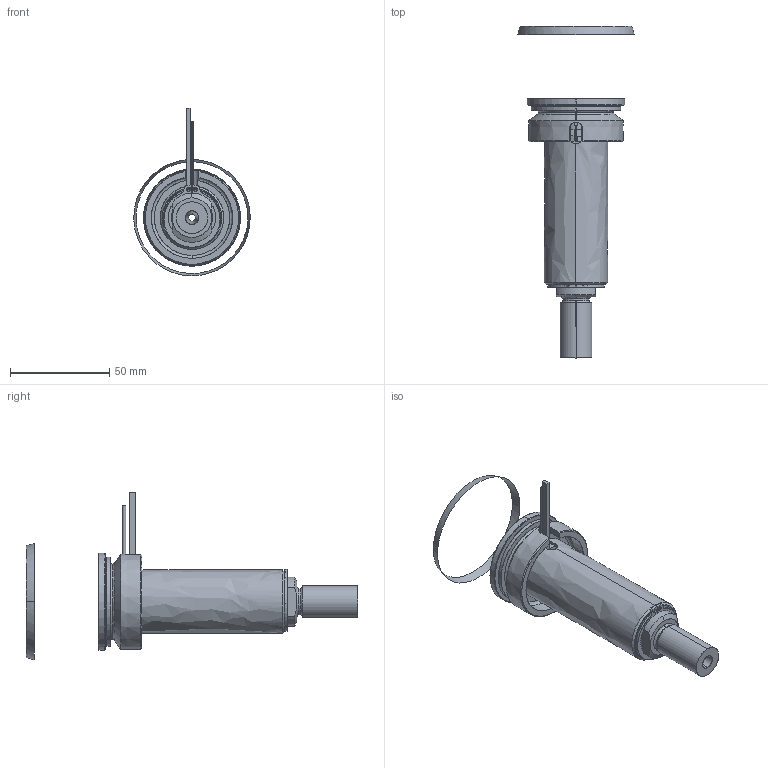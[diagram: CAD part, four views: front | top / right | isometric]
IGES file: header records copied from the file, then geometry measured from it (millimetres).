
Start section: SolidWorks IGES file using analytic representation for surfaces
Global section: file name: C:\Documents and Settings\ws-20\Desktop\TEMPORANEA\UGBE5002-S-A-P-3 [Ød-3.5 P-25 ØC-12].IGS; native system: SolidWorks 2012; preprocessor: SolidWorks 2012; author: ws-20; date: 120306.145313; units: millimetre
Bounding box: 58.79 x 167.44 x 84.69 mm (x, y, z)
Surface area: 43095.3 mm2 (no closed solid volume)
Topology: 0 solids, 0 shells, 111 faces, 2122 edges, 2122 vertices
Faces by surface type: revolution 68, bspline 43
